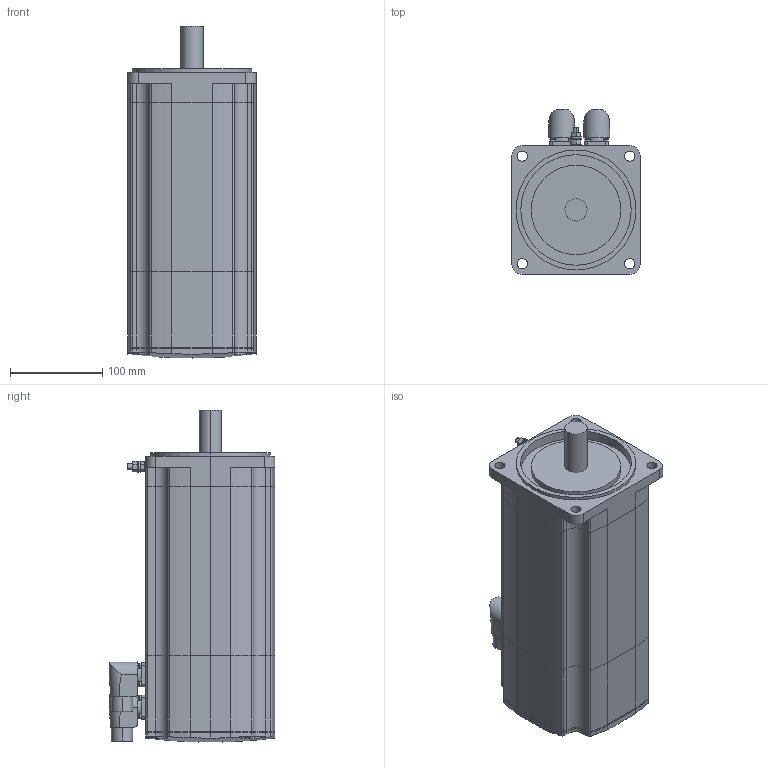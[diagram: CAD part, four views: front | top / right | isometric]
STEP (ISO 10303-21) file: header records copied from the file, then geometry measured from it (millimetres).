
FILE_DESCRIPTION (( 'STEP AP214' ), '1' );
FILE_NAME ('SH31402x0xF2100.STEP', '2013-11-29T10:24:10', ( 'Windows User' ), ( 'Schneider-Electric' ), 'SwSTEP 2.0', 'SolidWorks 2010', '' );
FILE_SCHEMA (( 'AUTOMOTIVE_DESIGN' ));
Length unit declared in the file: millimetre
Products named in the file (9): 1-100005039_DECKEL SH3-140X-X_VM0_Deckel; 1-100010983_K-FLACHDICHTUNG BMH-MH3-140X_000; 1-100009373_LAGERSCHILD SH3-140X-F_VM0_Lagerschild SH3-140x-F-M23 und M40; 1-100010761_K-GEHÄUSE SH3-140X_VM0_Gehäuse SH3-1402-F; 1-100010773_K-FLANSCH SH3-140X_VM0_Flansch SH3-140x mit Welle ohne Passfeder; K-POWER-CONINVERS-ABGEWIN_POWER-CONINVERS-ABGEWINKELT_000_mit Bremse; K-ENCODER-CONINVERS-ABGEW_ENCODER-CONINVERS-ABGEWINKELT_000_Single- MultiTurn; SH31402x0xF2100; 1-100009587_K-ERDUNGSBOLZEN M6_VM1
Assembly tree (8 placements, depth 2):
  SH31402x0xF2100
    1-100009373_LAGERSCHILD SH3-140X-F_VM0_Lagerschild SH3-140x-F-M23 und M40
    1-100010761_K-GEHÄUSE SH3-140X_VM0_Gehäuse SH3-1402-F
    1-100010773_K-FLANSCH SH3-140X_VM0_Flansch SH3-140x mit Welle ohne Passfeder
    1-100009587_K-ERDUNGSBOLZEN M6_VM1
    K-POWER-CONINVERS-ABGEWIN_POWER-CONINVERS-ABGEWINKELT_000_mit Bremse
    K-ENCODER-CONINVERS-ABGEW_ENCODER-CONINVERS-ABGEWINKELT_000_Single- MultiTurn
    1-100010983_K-FLACHDICHTUNG BMH-MH3-140X_000
    1-100005039_DECKEL SH3-140X-X_VM0_Deckel
Bounding box: 140 x 179.9 x 360.35 mm (x, y, z)
Volume: 5396925.1 mm3; surface area: 363726.3 mm2
Topology: 8 solids, 8 shells, 478 faces, 1193 edges, 786 vertices
Faces by surface type: cylinder 253, plane 201, torus 16, sphere 4, bspline 4
Entity records: 15963 total; most frequent: CARTESIAN_POINT 3724, DIRECTION 2654, ORIENTED_EDGE 2386, EDGE_CURVE 1193, AXIS2_PLACEMENT_3D 1026, VERTEX_POINT 786, VECTOR 602, LINE 602
